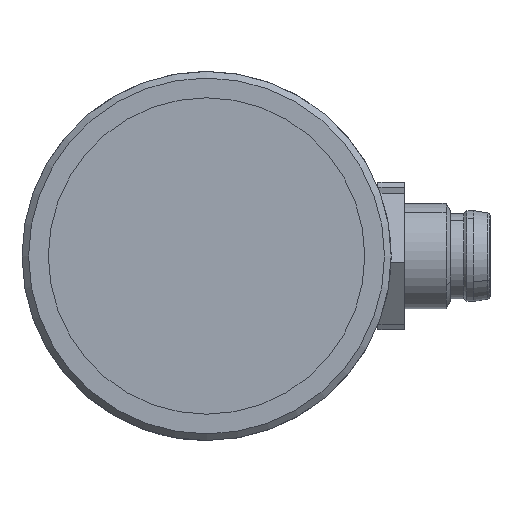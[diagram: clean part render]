
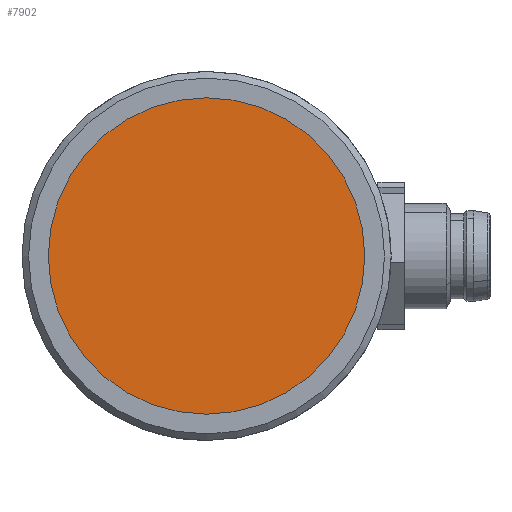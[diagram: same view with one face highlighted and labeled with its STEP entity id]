
A CAD part, left-side view. The second image highlights one B-rep face of the part: STEP entity #7902.
In plain terms, the highlighted planar face has unit normal (-1, 0, 0).
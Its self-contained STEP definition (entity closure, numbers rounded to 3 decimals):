
#430=CIRCLE('',#703,12.);
#703=AXIS2_PLACEMENT_3D('',#10326,#2496,#2497);
#704=AXIS2_PLACEMENT_3D('',#10328,#2498,$);
#1058=PLANE('',#704);
#2496=DIRECTION('',(-1.,0.,0.));
#2497=DIRECTION('',(0.,0.,-12.));
#2498=DIRECTION('',(1.,0.,0.));
#3510=VERTEX_POINT('',#10327);
#4620=EDGE_CURVE('',#3510,#3510,#430,.T.);
#6141=ORIENTED_EDGE('',*,*,#4620,.T.);
#7103=EDGE_LOOP('',(#6141));
#7515=FACE_BOUND('',#7103,.T.);
#7902=ADVANCED_FACE('',(#7515),#1058,.F.);
#10326=CARTESIAN_POINT('',(-49.,0.,0.));
#10327=CARTESIAN_POINT('',(-49.,0.,-12.));
#10328=CARTESIAN_POINT('',(-49.,0.,0.));
